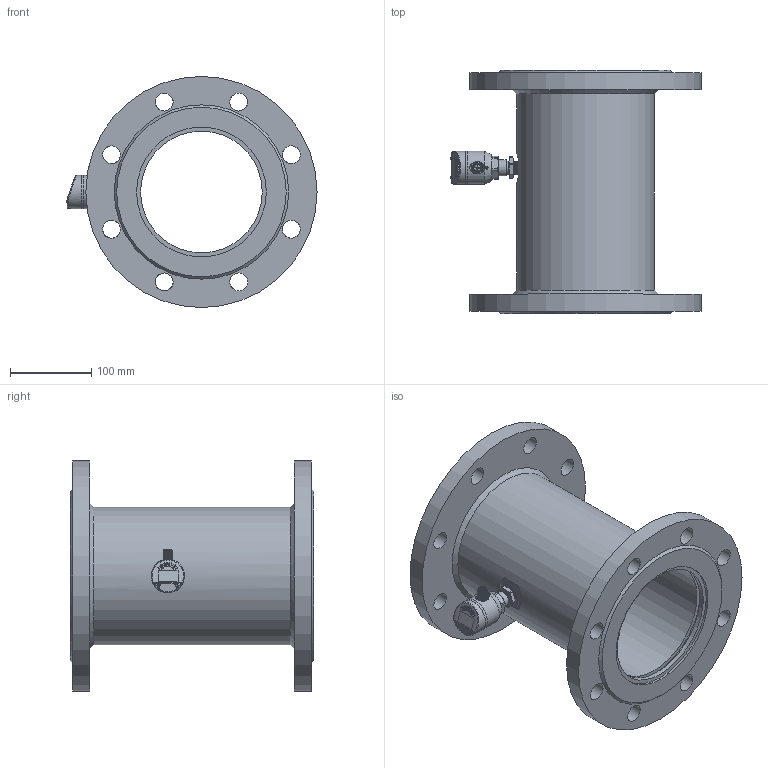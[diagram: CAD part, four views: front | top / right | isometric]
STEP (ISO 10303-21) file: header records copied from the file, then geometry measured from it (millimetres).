
FILE_DESCRIPTION( (''), '2;1');
FILE_NAME( 'QTKA_DN150_flange.step', '2024-01-11T13:52:51+08:00', (''), (''), '', '', '');
FILE_SCHEMA (('AUTOMOTIVE_DESIGN { 1 0 10303 214 3 1 1 1 }'));
Length unit declared in the file: millimetre
Products named in the file (1): QTKA DN150_flange
Bounding box: 308.3 x 300 x 285 mm (x, y, z)
Volume: 3189034.1 mm3; surface area: 533254.2 mm2
Topology: 5 solids, 7 shells, 450 faces, 1098 edges, 705 vertices
Faces by surface type: cylinder 158, plane 155, cone 50, bspline 42, torus 39, sphere 6
Full cylindrical faces by diameter (mm): 1 x5, 2.7 x4, 8.4 x1, 9.7 x1, 9.8 x1, 10.1 x1, 11.6 x1, 12 x1, 15.9 x1, 16.5 x1, 20 x1, 22 x16, 23 x3, 26 x4, 26.1 x1, 37 x1, 41 x3, 150 x3, 160 x4, 170 x1, 285 x2
Entity records: 29009 total; most frequent: CARTESIAN_POINT 17661, DIRECTION 2012, ORIENTED_EDGE 1922, EDGE_CURVE 961, AXIS2_PLACEMENT_3D 819, VERTEX_POINT 648, EDGE_LOOP 611, ADVANCED_FACE 448
